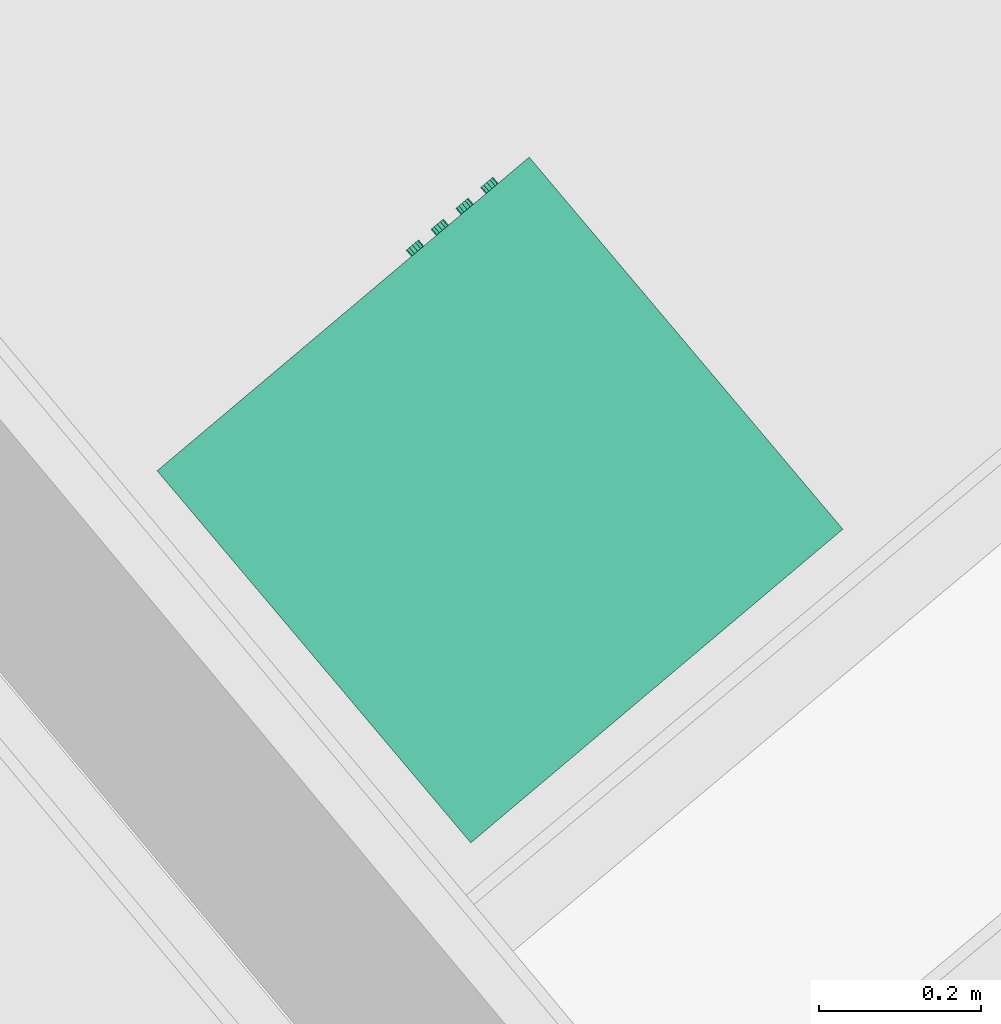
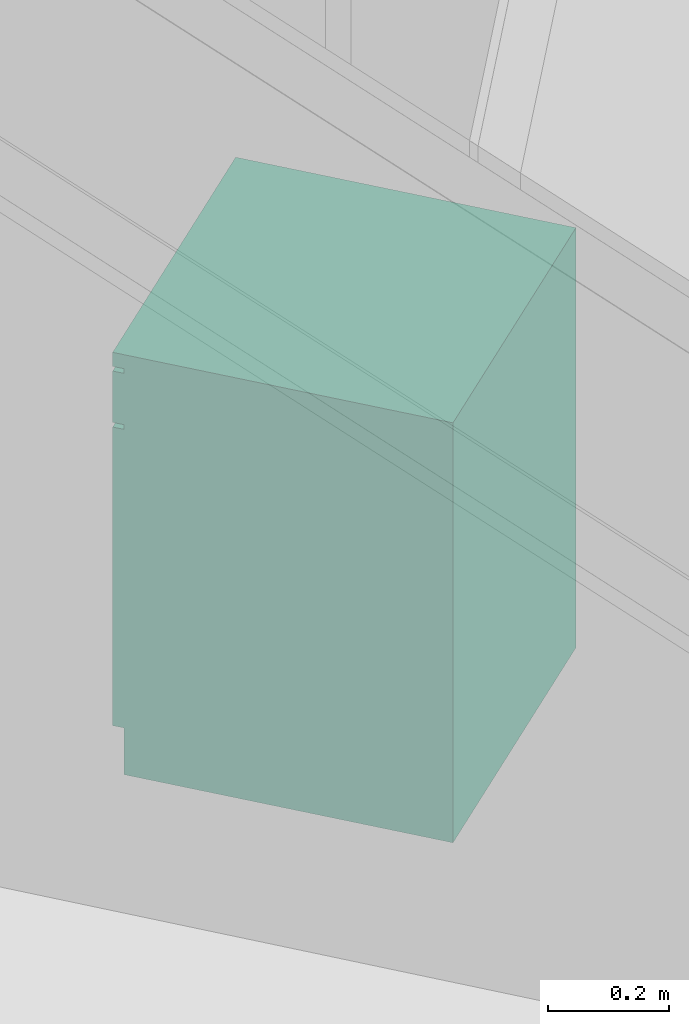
# One storey, part 56 of 61: 1 sanitary terminal.
"""IFC4 building model written with IfcOpenShell, lengths in metres."""

from ifc_helpers import new_model, entity, si_unit, converted_unit, derived_unit, direction, frame, origin_with_axes, place, context, subcontext, project, spatial, polygons, source, transform, mapped, type_object, element, save


model = new_model("IFC4")

# Units and contexts
model_context = context("Model", 3, precision=1e-05, world=origin_with_axes(), true_north=direction((0.0, 1.0)))
body_context = subcontext(model_context, "Body", "Model", "MODEL_VIEW")
ifc_project = project(units=[si_unit("LENGTHUNIT", "METRE"), si_unit("AREAUNIT", "SQUARE_METRE"), si_unit("VOLUMEUNIT", "CUBIC_METRE"), converted_unit("PLANEANGLEUNIT", "DEGREE", entity("IfcPlaneAngleMeasure", 0.0174532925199), si_unit("PLANEANGLEUNIT", "RADIAN"), dimensions=[0, 0, 0, 0, 0, 0, 0]), converted_unit("TIMEUNIT", "Year", entity("IfcTimeMeasure", 31556926.0), si_unit("TIMEUNIT", "SECOND"), dimensions=[0, 0, 1, 0, 0, 0, 0]), si_unit("MASSUNIT", "GRAM", prefix="KILO"), si_unit("THERMODYNAMICTEMPERATUREUNIT", "DEGREE_CELSIUS"), si_unit("LUMINOUSINTENSITYUNIT", "LUMEN"), si_unit("ENERGYUNIT", "JOULE", prefix="MEGA"), derived_unit("THERMALCONDUCTANCEUNIT", [(si_unit("POWERUNIT", "WATT"), 1), (si_unit("LENGTHUNIT", "METRE"), -1), (si_unit("THERMODYNAMICTEMPERATUREUNIT", "KELVIN"), -1)]), derived_unit("SPECIFICHEATCAPACITYUNIT", [(si_unit("ENERGYUNIT", "JOULE"), 1), (si_unit("MASSUNIT", "GRAM", prefix="KILO"), -1), (si_unit("THERMODYNAMICTEMPERATUREUNIT", "KELVIN"), -1)]), derived_unit("MASSDENSITYUNIT", [(si_unit("MASSUNIT", "GRAM", prefix="KILO"), 1), (si_unit("VOLUMEUNIT", "CUBIC_METRE"), -1)])], contexts=[model_context])

# Site, building, storey, space
site_placement = place(None, frame((-0.00153261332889, -0.00661245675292, 0.0), z_axis=(0.0, 0.0, 1.0), x_axis=(1.0, 0.0, 0.0)))
site = spatial("IfcSite", under=ifc_project, at=site_placement, Name="Gelände", CompositionType="ELEMENT")
building_placement = place(site_placement, origin_with_axes())
building = spatial("IfcBuilding", under=site, at=building_placement, Name="Gebäude", CompositionType="ELEMENT")
storey_placement = place(building_placement, frame((0.0, 0.0, 5.7), z_axis=(0.0, 0.0, 1.0), x_axis=(1.0, 0.0, 0.0)))
storey = spatial("IfcBuildingStorey", under=building, at=storey_placement, Name="DG1", CompositionType="ELEMENT", Elevation=5.7)
space_placement = place(storey_placement, frame((2.89957040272, 23.0457904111, 0.22), z_axis=(0.0, 0.0, 1.0), x_axis=(0.640845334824, -0.767670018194, 0.0)))
space = spatial("IfcSpace", under=storey, at=space_placement, CompositionType="ELEMENT", PredefinedType="NOTDEFINED")

# Sanitary terminal
sanitary_terminal_type = type_object("IfcSanitaryTerminalType", Name="Waschmaschine 01 26", PredefinedType="NOTDEFINED")
shared_shape = source(origin_with_axes(), body_context, "Body", "Tessellation", [
    polygons([(-0.3, -0.58, 0.0944444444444), (0.3, -0.58, 0.0944444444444), (0.3, -0.6, 0.0944444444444), (-0.3, -0.6, 0.0944444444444), (-0.3, -0.58, 0.698888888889), (0.3, -0.58, 0.698888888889), (0.17, -0.58, 0.396666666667), (0.147224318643, -0.58, 0.481666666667), (0.085, -0.58, 0.54389098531), (0.0, -0.58, 0.566666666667), (-0.085, -0.58, 0.54389098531), (-0.147224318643, -0.58, 0.481666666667), (-0.17, -0.58, 0.396666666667), (-0.147224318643, -0.58, 0.311666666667), (-0.085, -0.58, 0.249442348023), (0.0, -0.58, 0.226666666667), (0.085, -0.58, 0.249442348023), (0.147224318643, -0.58, 0.311666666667), (0.3, -0.6, 0.698888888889), (-0.3, -0.6, 0.698888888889), (0.17, -0.6, 0.396666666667), (0.147224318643, -0.6, 0.311666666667), (0.085, -0.6, 0.249442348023), (0.0, -0.6, 0.226666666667), (-0.085, -0.6, 0.249442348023), (-0.147224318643, -0.6, 0.311666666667), (-0.17, -0.6, 0.396666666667), (-0.147224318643, -0.6, 0.481666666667), (-0.085, -0.6, 0.54389098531), (0.0, -0.6, 0.566666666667), (0.085, -0.6, 0.54389098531), (0.147224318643, -0.6, 0.481666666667)], [[[1, 2, 3, 4]], [[1, 5, 6, 2], [7, 8, 9, 10, 11, 12, 13, 14, 15, 16, 17, 18]], [[2, 6, 19, 3]], [[4, 3, 19, 20], [21, 22, 23, 24, 25, 26, 27, 28, 29, 30, 31, 32]], [[5, 1, 4, 20]], [[6, 5, 20, 19]], [[8, 7, 21, 32]], [[9, 8, 32, 31]], [[10, 9, 31, 30]], [[11, 10, 30, 29]], [[12, 11, 29, 28]], [[13, 12, 28, 27]], [[14, 13, 27, 26]], [[15, 14, 26, 25]], [[16, 15, 25, 24]], [[17, 16, 24, 23]], [[18, 17, 23, 22]], [[7, 18, 22, 21]]], closed=True),
    polygons([(0.17, -0.56, 0.396666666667), (0.147224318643, -0.56, 0.481666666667), (0.147224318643, -0.58, 0.481666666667), (0.17, -0.58, 0.396666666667), (0.147224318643, -0.56, 0.311666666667), (0.085, -0.56, 0.249442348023), (0.0, -0.56, 0.226666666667), (-0.085, -0.56, 0.249442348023), (-0.147224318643, -0.56, 0.311666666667), (-0.17, -0.56, 0.396666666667), (-0.147224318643, -0.56, 0.481666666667), (-0.085, -0.56, 0.54389098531), (0.0, -0.56, 0.566666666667), (0.085, -0.56, 0.54389098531), (0.136, -0.56, 0.396666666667), (0.117779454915, -0.56, 0.464666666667), (0.068, -0.56, 0.514446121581), (0.0, -0.56, 0.532666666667), (-0.068, -0.56, 0.514446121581), (-0.117779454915, -0.56, 0.464666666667), (-0.136, -0.56, 0.396666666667), (-0.117779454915, -0.56, 0.328666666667), (-0.068, -0.56, 0.278887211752), (0.0, -0.56, 0.260666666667), (0.068, -0.56, 0.278887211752), (0.117779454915, -0.56, 0.328666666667), (0.085, -0.58, 0.54389098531), (0.0, -0.58, 0.566666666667), (-0.085, -0.58, 0.54389098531), (-0.147224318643, -0.58, 0.481666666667), (-0.17, -0.58, 0.396666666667), (-0.147224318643, -0.58, 0.311666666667), (-0.085, -0.58, 0.249442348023), (0.0, -0.58, 0.226666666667), (0.085, -0.58, 0.249442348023), (0.147224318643, -0.58, 0.311666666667), (0.136, -0.58, 0.396666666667), (0.117779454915, -0.58, 0.328666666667), (0.068, -0.58, 0.278887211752), (0.0, -0.58, 0.260666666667), (-0.068, -0.58, 0.278887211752), (-0.117779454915, -0.58, 0.328666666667), (-0.136, -0.58, 0.396666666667), (-0.117779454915, -0.58, 0.464666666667), (-0.068, -0.58, 0.514446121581), (0.0, -0.58, 0.532666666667), (0.068, -0.58, 0.514446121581), (0.117779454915, -0.58, 0.464666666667)], [[[1, 2, 3, 4]], [[1, 5, 6, 7, 8, 9, 10, 11, 12, 13, 14, 2], [15, 16, 17, 18, 19, 20, 21, 22, 23, 24, 25, 26]], [[2, 14, 27, 3]], [[4, 3, 27, 28, 29, 30, 31, 32, 33, 34, 35, 36], [37, 38, 39, 40, 41, 42, 43, 44, 45, 46, 47, 48]], [[5, 1, 4, 36]], [[6, 5, 36, 35]], [[7, 6, 35, 34]], [[8, 7, 34, 33]], [[9, 8, 33, 32]], [[10, 9, 32, 31]], [[11, 10, 31, 30]], [[12, 11, 30, 29]], [[13, 12, 29, 28]], [[14, 13, 28, 27]], [[16, 15, 37, 48]], [[17, 16, 48, 47]], [[18, 17, 47, 46]], [[19, 18, 46, 45]], [[20, 19, 45, 44]], [[21, 20, 44, 43]], [[22, 21, 43, 42]], [[23, 22, 42, 41]], [[24, 23, 41, 40]], [[25, 24, 40, 39]], [[26, 25, 39, 38]], [[15, 26, 38, 37]]], closed=True),
    polygons([(-0.068, -0.56, 0.514446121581), (0.0, -0.56, 0.532666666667), (0.0, -0.46, 0.498666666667), (-0.051, -0.46, 0.485001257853), (0.068, -0.56, 0.514446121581), (0.051, -0.46, 0.485001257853), (0.088334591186, -0.46, 0.447666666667), (0.102, -0.46, 0.396666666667), (0.088334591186, -0.46, 0.345666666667), (0.051, -0.46, 0.308332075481), (0.0, -0.46, 0.294666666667), (-0.051, -0.46, 0.308332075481), (-0.088334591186, -0.46, 0.345666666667), (-0.102, -0.46, 0.396666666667), (-0.088334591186, -0.46, 0.447666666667), (-0.117779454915, -0.56, 0.464666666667), (0.117779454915, -0.56, 0.464666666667), (0.136, -0.56, 0.396666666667), (0.117779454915, -0.56, 0.328666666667), (0.068, -0.56, 0.278887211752), (0.0, -0.56, 0.260666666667), (-0.068, -0.56, 0.278887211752), (-0.117779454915, -0.56, 0.328666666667), (-0.136, -0.56, 0.396666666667)], [[[1, 2, 3, 4]], [[2, 5, 6, 3]], [[3, 6, 7, 8, 9, 10, 11, 12, 13, 14, 15, 4]], [[16, 1, 4, 15]], [[5, 17, 7, 6]], [[17, 18, 8, 7]], [[18, 19, 9, 8]], [[19, 20, 10, 9]], [[20, 21, 11, 10]], [[21, 22, 12, 11]], [[22, 23, 13, 12]], [[23, 24, 14, 13]], [[24, 16, 15, 14]]], closed=False),
    polygons([(-0.3, -0.58, 0.0944444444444), (-0.3, -0.58, 0.821666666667), (-0.3, 0.0, 0.821666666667), (-0.3, 0.0, 0.0944444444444)], [[[1, 2, 3, 4]]], closed=False),
    polygons([(0.3, -0.58, 0.0944444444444), (0.3, -0.58, 0.821666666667), (0.3, 0.0, 0.821666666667), (0.3, 0.0, 0.0944444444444)], [[[1, 2, 3, 4]]], closed=False),
    polygons([(-0.3, 0.0, 0.0944444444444), (-0.3, 0.0, 0.821666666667), (0.3, 0.0, 0.821666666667), (0.3, 0.0, 0.0944444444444)], [[[1, 2, 3, 4]]], closed=False),
    polygons([(-0.3, -0.58, 0.0), (0.3, -0.58, 0.0), (0.3, -0.58, 0.0944444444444), (-0.3, -0.58, 0.0944444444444), (-0.3, 0.0, 0.0), (0.3, 0.0, 0.0), (0.3, 0.0, 0.0944444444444), (-0.3, 0.0, 0.0944444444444)], [[[1, 2, 3, 4]], [[1, 5, 6, 2]], [[2, 6, 7, 3]], [[4, 3, 7, 8]], [[5, 1, 4, 8]], [[6, 5, 8, 7]]], closed=True),
    polygons([(-0.3, -0.58, 0.708333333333), (0.3, -0.58, 0.708333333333), (0.3, -0.6, 0.708333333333), (-0.3, -0.6, 0.708333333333), (-0.3, -0.58, 0.812222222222), (0.3, -0.58, 0.812222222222), (0.3, -0.6, 0.812222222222), (-0.3, -0.6, 0.812222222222)], [[[1, 2, 3, 4]], [[1, 5, 6, 2]], [[2, 6, 7, 3]], [[4, 3, 7, 8]], [[5, 1, 4, 8]], [[6, 5, 8, 7]]], closed=True),
    polygons([(-0.3, -0.58, 0.698888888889), (-0.3, -0.58, 0.821666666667), (0.3, -0.58, 0.821666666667), (0.3, -0.58, 0.698888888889)], [[[1, 2, 3, 4]]], closed=False),
    polygons([(-0.3, -0.6, 0.821666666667), (0.3, -0.6, 0.821666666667), (0.3, -0.6, 0.85), (-0.3, -0.6, 0.85), (-0.3, 0.0, 0.821666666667), (0.3, 0.0, 0.821666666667), (0.3, 0.0, 0.85), (-0.3, 0.0, 0.85)], [[[1, 2, 3, 4]], [[1, 5, 6, 2]], [[2, 6, 7, 3]], [[4, 3, 7, 8]], [[5, 1, 4, 8]], [[6, 5, 8, 7]]], closed=True),
    polygons([(-0.231339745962, -0.6, 0.76), (-0.235, -0.6, 0.756339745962), (-0.24, -0.6, 0.755), (-0.245, -0.6, 0.756339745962), (-0.248660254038, -0.6, 0.76), (-0.25, -0.6, 0.765), (-0.248660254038, -0.6, 0.77), (-0.245, -0.6, 0.773660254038), (-0.24, -0.6, 0.775), (-0.235, -0.6, 0.773660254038), (-0.231339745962, -0.6, 0.77), (-0.23, -0.6, 0.765), (-0.231339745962, -0.61, 0.76), (-0.235, -0.61, 0.756339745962), (-0.24, -0.61, 0.755), (-0.245, -0.61, 0.756339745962), (-0.248660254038, -0.61, 0.76), (-0.25, -0.61, 0.765), (-0.248660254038, -0.61, 0.77), (-0.245, -0.61, 0.773660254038), (-0.24, -0.61, 0.775), (-0.235, -0.61, 0.773660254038), (-0.231339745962, -0.61, 0.77), (-0.23, -0.61, 0.765)], [[[1, 2, 3, 4, 5, 6, 7, 8, 9, 10, 11, 12]], [[2, 1, 13, 14]], [[3, 2, 14, 15]], [[4, 3, 15, 16]], [[5, 4, 16, 17]], [[6, 5, 17, 18]], [[7, 6, 18, 19]], [[8, 7, 19, 20]], [[9, 8, 20, 21]], [[10, 9, 21, 22]], [[11, 10, 22, 23]], [[12, 11, 23, 24]], [[1, 12, 24, 13]], [[13, 24, 23, 22, 21, 20, 19, 18, 17, 16, 15, 14]]], closed=True),
    polygons([(-0.191339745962, -0.6, 0.76), (-0.195, -0.6, 0.756339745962), (-0.2, -0.6, 0.755), (-0.205, -0.6, 0.756339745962), (-0.208660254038, -0.6, 0.76), (-0.21, -0.6, 0.765), (-0.208660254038, -0.6, 0.77), (-0.205, -0.6, 0.773660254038), (-0.2, -0.6, 0.775), (-0.195, -0.6, 0.773660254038), (-0.191339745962, -0.6, 0.77), (-0.19, -0.6, 0.765), (-0.191339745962, -0.61, 0.76), (-0.195, -0.61, 0.756339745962), (-0.2, -0.61, 0.755), (-0.205, -0.61, 0.756339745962), (-0.208660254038, -0.61, 0.76), (-0.21, -0.61, 0.765), (-0.208660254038, -0.61, 0.77), (-0.205, -0.61, 0.773660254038), (-0.2, -0.61, 0.775), (-0.195, -0.61, 0.773660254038), (-0.191339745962, -0.61, 0.77), (-0.19, -0.61, 0.765)], [[[1, 2, 3, 4, 5, 6, 7, 8, 9, 10, 11, 12]], [[2, 1, 13, 14]], [[3, 2, 14, 15]], [[4, 3, 15, 16]], [[5, 4, 16, 17]], [[6, 5, 17, 18]], [[7, 6, 18, 19]], [[8, 7, 19, 20]], [[9, 8, 20, 21]], [[10, 9, 21, 22]], [[11, 10, 22, 23]], [[12, 11, 23, 24]], [[1, 12, 24, 13]], [[13, 24, 23, 22, 21, 20, 19, 18, 17, 16, 15, 14]]], closed=True),
    polygons([(-0.151339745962, -0.6, 0.76), (-0.155, -0.6, 0.756339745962), (-0.16, -0.6, 0.755), (-0.165, -0.6, 0.756339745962), (-0.168660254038, -0.6, 0.76), (-0.17, -0.6, 0.765), (-0.168660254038, -0.6, 0.77), (-0.165, -0.6, 0.773660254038), (-0.16, -0.6, 0.775), (-0.155, -0.6, 0.773660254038), (-0.151339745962, -0.6, 0.77), (-0.15, -0.6, 0.765), (-0.151339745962, -0.61, 0.76), (-0.155, -0.61, 0.756339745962), (-0.16, -0.61, 0.755), (-0.165, -0.61, 0.756339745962), (-0.168660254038, -0.61, 0.76), (-0.17, -0.61, 0.765), (-0.168660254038, -0.61, 0.77), (-0.165, -0.61, 0.773660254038), (-0.16, -0.61, 0.775), (-0.155, -0.61, 0.773660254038), (-0.151339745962, -0.61, 0.77), (-0.15, -0.61, 0.765)], [[[1, 2, 3, 4, 5, 6, 7, 8, 9, 10, 11, 12]], [[2, 1, 13, 14]], [[3, 2, 14, 15]], [[4, 3, 15, 16]], [[5, 4, 16, 17]], [[6, 5, 17, 18]], [[7, 6, 18, 19]], [[8, 7, 19, 20]], [[9, 8, 20, 21]], [[10, 9, 21, 22]], [[11, 10, 22, 23]], [[12, 11, 23, 24]], [[1, 12, 24, 13]], [[13, 24, 23, 22, 21, 20, 19, 18, 17, 16, 15, 14]]], closed=True),
    polygons([(-0.111339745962, -0.6, 0.76), (-0.115, -0.6, 0.756339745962), (-0.12, -0.6, 0.755), (-0.125, -0.6, 0.756339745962), (-0.128660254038, -0.6, 0.76), (-0.13, -0.6, 0.765), (-0.128660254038, -0.6, 0.77), (-0.125, -0.6, 0.773660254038), (-0.12, -0.6, 0.775), (-0.115, -0.6, 0.773660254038), (-0.111339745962, -0.6, 0.77), (-0.11, -0.6, 0.765), (-0.111339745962, -0.61, 0.76), (-0.115, -0.61, 0.756339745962), (-0.12, -0.61, 0.755), (-0.125, -0.61, 0.756339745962), (-0.128660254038, -0.61, 0.76), (-0.13, -0.61, 0.765), (-0.128660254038, -0.61, 0.77), (-0.125, -0.61, 0.773660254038), (-0.12, -0.61, 0.775), (-0.115, -0.61, 0.773660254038), (-0.111339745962, -0.61, 0.77), (-0.11, -0.61, 0.765)], [[[1, 2, 3, 4, 5, 6, 7, 8, 9, 10, 11, 12]], [[2, 1, 13, 14]], [[3, 2, 14, 15]], [[4, 3, 15, 16]], [[5, 4, 16, 17]], [[6, 5, 17, 18]], [[7, 6, 18, 19]], [[8, 7, 19, 20]], [[9, 8, 20, 21]], [[10, 9, 21, 22]], [[11, 10, 22, 23]], [[12, 11, 23, 24]], [[1, 12, 24, 13]], [[13, 24, 23, 22, 21, 20, 19, 18, 17, 16, 15, 14]]], closed=True),
])
sanitary_terminal_placement = place(space_placement, frame((2.38304574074, 0.348025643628, 0.0), z_axis=(0.0, 0.0, 1.0), x_axis=(0.00483677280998, -0.999988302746, 0.0)))
element("IfcSanitaryTerminal", 1, at=sanitary_terminal_placement, inside=space, type_object=sanitary_terminal_type, Name="Objekt-0002", PredefinedType="NOTDEFINED", context=body_context, shape_type="MappedRepresentation", body=[
    mapped(shared_shape, transform((0.0, 0.0, 0.0))),
])

save(model, "model.ifc")
